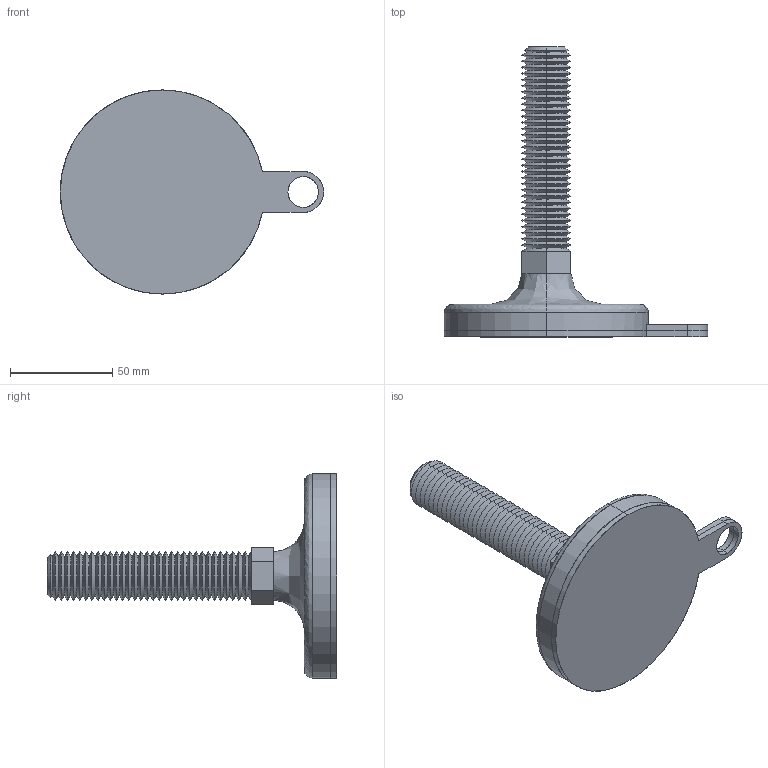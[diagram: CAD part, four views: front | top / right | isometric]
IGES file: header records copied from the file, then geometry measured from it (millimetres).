
Start section: SolidWorks IGES file using analytic representation for surfaces
Global section: file name: C:\Users\liam_\OneDrive\Documents\WORK\Work for WixRoyd\Job Files\J-00026 - Matt Davis CAD - 20191124\04. CAD Drawings\Wixroyd20191124\34704_v2\34704_v2_20191128_IGES\34704.W2404.igs; native system: SolidWorks 2017; preprocessor: SolidWorks 2017; author: liam_; date: 191128.202959; units: millimetre
Bounding box: 129 x 142 x 100 mm (x, y, z)
Surface area: 52870 mm2 (no closed solid volume)
Topology: 0 solids, 0 shells, 177 faces, 1340 edges, 1340 vertices
Faces by surface type: revolution 145, bspline 32
